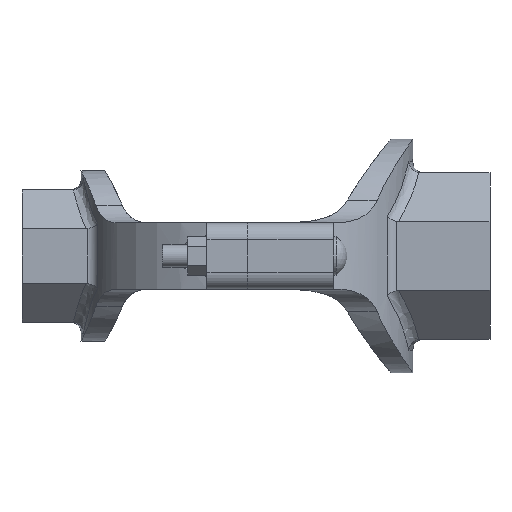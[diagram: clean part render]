
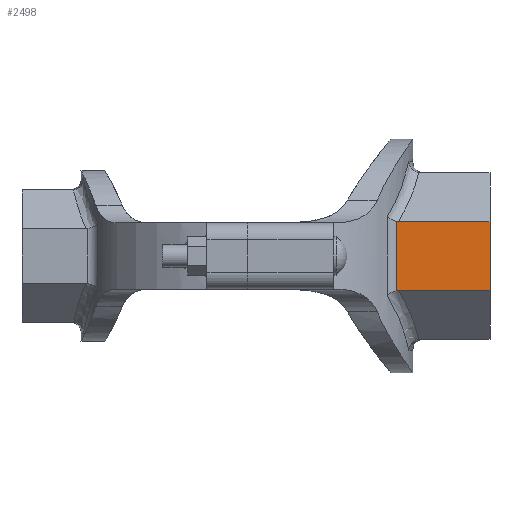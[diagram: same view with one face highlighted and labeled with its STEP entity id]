
A CAD part, left-side view. The second image highlights one B-rep face of the part: STEP entity #2498.
In plain terms, the highlighted planar face has unit normal (-1, 0, 0) as drawn and (1, 0, 0) by its records, which use the part's own axes.
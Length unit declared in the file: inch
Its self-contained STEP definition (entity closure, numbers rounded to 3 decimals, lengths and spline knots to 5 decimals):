
#84=B_SPLINE_CURVE_WITH_KNOTS('',3,(#4469,#4470,#4471,#4472),
 .UNSPECIFIED.,.F.,.F.,(4,4),(0.,0.11688),.UNSPECIFIED.);
#87=B_SPLINE_CURVE_WITH_KNOTS('',3,(#4520,#4521,#4522,#4523),
 .UNSPECIFIED.,.F.,.F.,(4,4),(0.82611,0.9633),
 .UNSPECIFIED.);
#300=FACE_OUTER_BOUND('',#449,.T.);
#449=EDGE_LOOP('',(#2100,#2101,#2102,#2103,#2104,#2105));
#581=LINE('',#4558,#765);
#592=LINE('',#4703,#776);
#636=LINE('',#5156,#820);
#637=LINE('',#5158,#821);
#765=VECTOR('',#3211,0.3937);
#776=VECTOR('',#3246,0.3937);
#820=VECTOR('',#3382,0.3937);
#821=VECTOR('',#3385,0.3937);
#1065=VERTEX_POINT('',#4466);
#1066=VERTEX_POINT('',#4468);
#1070=VERTEX_POINT('',#4508);
#1071=VERTEX_POINT('',#4519);
#1087=VERTEX_POINT('',#4702);
#1144=VERTEX_POINT('',#5154);
#1364=EDGE_CURVE('',#1065,#1066,#84,.T.);
#1369=EDGE_CURVE('',#1070,#1071,#87,.T.);
#1372=EDGE_CURVE('',#1070,#1066,#581,.T.);
#1396=EDGE_CURVE('',#1071,#1087,#592,.T.);
#1476=EDGE_CURVE('',#1065,#1144,#636,.T.);
#1477=EDGE_CURVE('',#1087,#1144,#637,.T.);
#2100=ORIENTED_EDGE('',*,*,#1372,.T.);
#2101=ORIENTED_EDGE('',*,*,#1364,.F.);
#2102=ORIENTED_EDGE('',*,*,#1476,.T.);
#2103=ORIENTED_EDGE('',*,*,#1477,.F.);
#2104=ORIENTED_EDGE('',*,*,#1396,.F.);
#2105=ORIENTED_EDGE('',*,*,#1369,.F.);
#2243=PLANE('',#2780);
#2498=ADVANCED_FACE('',(#300),#2243,.T.);
#2780=AXIS2_PLACEMENT_3D('',#5157,#3383,#3384);
#3211=DIRECTION('',(0.,0.,-1.));
#3246=DIRECTION('',(0.,1.,0.));
#3382=DIRECTION('',(0.,1.,0.));
#3383=DIRECTION('center_axis',(1.,0.,0.));
#3384=DIRECTION('ref_axis',(0.,0.,-1.));
#3385=DIRECTION('',(0.,0.,-1.));
#4466=CARTESIAN_POINT('',(1.89,3.42468,-0.78286));
#4468=CARTESIAN_POINT('',(1.89,3.37941,-0.78816));
#4469=CARTESIAN_POINT('Ctrl Pts',(1.89,3.42468,-0.78286));
#4470=CARTESIAN_POINT('Ctrl Pts',(1.89,3.40934,-0.78286));
#4471=CARTESIAN_POINT('Ctrl Pts',(1.89,3.39415,-0.78455));
#4472=CARTESIAN_POINT('Ctrl Pts',(1.89,3.37941,-0.78816));
#4508=CARTESIAN_POINT('',(1.89,3.37941,0.78816));
#4519=CARTESIAN_POINT('',(1.89,3.42468,0.78286));
#4520=CARTESIAN_POINT('Ctrl Pts',(1.89,3.37941,0.78816));
#4521=CARTESIAN_POINT('Ctrl Pts',(1.89,3.39415,0.78455));
#4522=CARTESIAN_POINT('Ctrl Pts',(1.89,3.40934,0.78286));
#4523=CARTESIAN_POINT('Ctrl Pts',(1.89,3.42468,0.78286));
#4558=CARTESIAN_POINT('',(1.89,3.37941,0.));
#4702=CARTESIAN_POINT('',(1.89,5.5,0.78286));
#4703=CARTESIAN_POINT('',(1.89,0.,0.78286));
#5154=CARTESIAN_POINT('',(1.89,5.5,-0.78286));
#5156=CARTESIAN_POINT('',(1.89,0.,-0.78286));
#5157=CARTESIAN_POINT('Origin',(1.89,0.,0.78286));
#5158=CARTESIAN_POINT('',(1.89,5.5,-0.78286));
